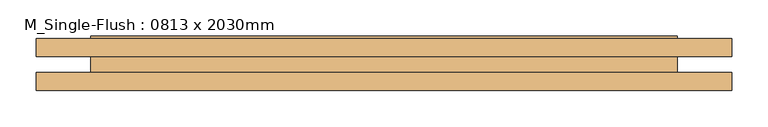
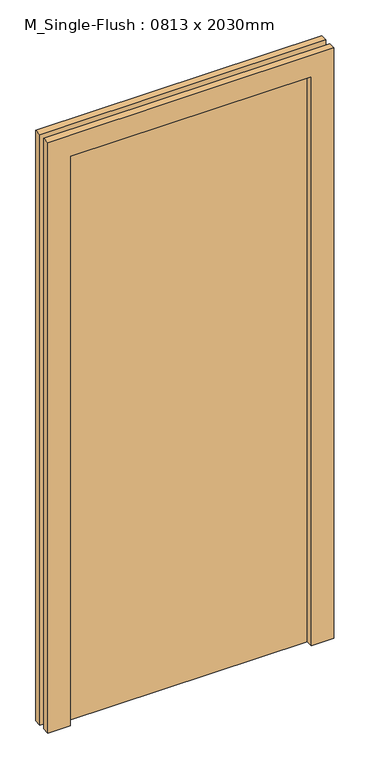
"""IFC4 building model written with IfcOpenShell, lengths in millimetres: door geometry, M_Single-Flush : 0813 x 2030mm."""

from ifc_helpers import new_model, si_unit, frame, origin, origin_with_axes, place, context, project, spatial, polyline, outline, extrude, source, transform, mapped, element, save


def m_single_flush_0813_x_2030mm_24a3edba(model_context):
    return source(origin(), model_context, "Body", "SweptSolid", [
        extrude(outline(polyline([(2106.0, -482.5), (0.0, -482.5), (0.0, -406.5), (2030.0, -406.5), (2030.0, 406.5), (0.0, 406.5), (0.0, 482.5), (2106.0, 482.5), (2106.0, -482.5)])), frame((0.0, -36.0, 0.0), z_axis=(0.0, 1.0, 0.0), x_axis=(0.0, 0.0, 1.0)), (0.0, 0.0, 1.0), 25.0),
        extrude(outline(polyline([(2106.0, 482.5), (2106.0, -482.5), (0.0, -482.5), (0.0, -406.5), (2030.0, -406.5), (2030.0, 406.5), (0.0, 406.5), (0.0, 482.5), (2106.0, 482.5)])), frame((0.0, 11.0, 0.0), z_axis=(0.0, 1.0, 0.0), x_axis=(0.0, 0.0, 1.0)), (0.0, 0.0, 1.0), 25.0),
        extrude(outline(polyline([(406.5, 40.0), (406.5, -11.0), (-406.5, -11.0), (-406.5, 40.0), (406.5, 40.0)])), origin_with_axes(), (0.0, 0.0, 1.0), 2030.0),
    ])


if __name__ == "__main__":
    model = new_model("IFC4")
    model_context = context("Model", 3, world=origin())
    ifc_project = project(units=[si_unit("LENGTHUNIT", "METRE", prefix="MILLI")], contexts=[model_context])
    site = spatial("IfcSite", under=ifc_project)
    building = spatial("IfcBuilding", under=site)
    placement = place(None, origin())
    m_single_flush_0813_x_2030mm_shape = m_single_flush_0813_x_2030mm_24a3edba(model_context)
    element("IfcDoor", 1, ObjectType="M_Single-Flush : 0813 x 2030mm", at=placement, inside=building, context=model_context, shape_type="MappedRepresentation", body=[
        mapped(m_single_flush_0813_x_2030mm_shape, transform((0.0, 0.0, 0.0), x_axis=(1.0, 0.0, 0.0), y_axis=(0.0, 1.0, 0.0), z_axis=(0.0, 0.0, 1.0))),
    ])
    save(model, "model.ifc")
